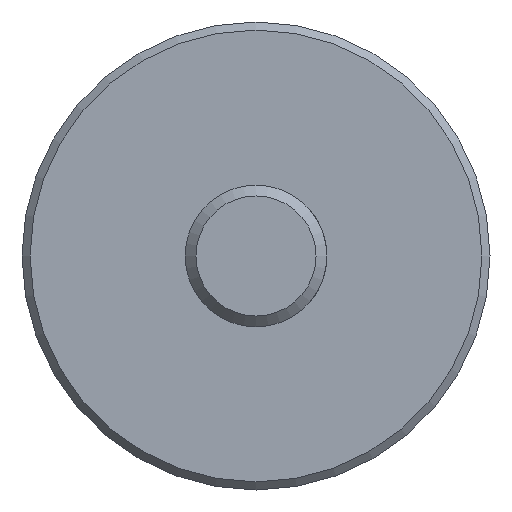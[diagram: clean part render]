
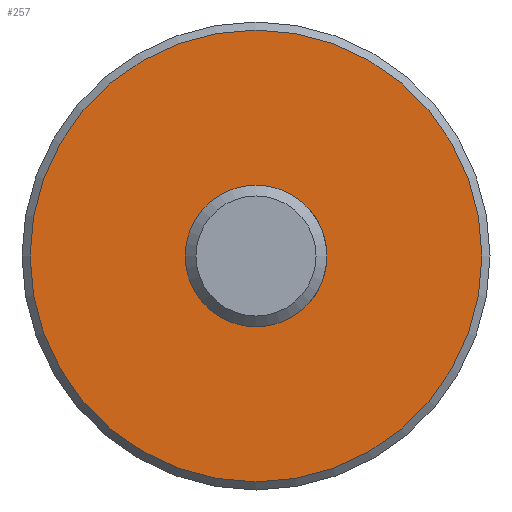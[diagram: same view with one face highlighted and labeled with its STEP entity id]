
A CAD part, front view. The second image highlights one B-rep face of the part: STEP entity #257.
In plain terms, the highlighted planar face has unit normal (0, -1, 0).
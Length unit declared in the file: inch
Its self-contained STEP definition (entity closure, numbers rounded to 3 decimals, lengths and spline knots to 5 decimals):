
#5 = CIRCLE ( 'NONE', #543, 0.3937 ) ;
#21 = EDGE_CURVE ( 'NONE', #217, #217, #5, .T. ) ;
#77 = DIRECTION ( 'NONE',  ( 0., 1., 0. ) ) ;
#110 = DIRECTION ( 'NONE',  ( 0., 0., 1. ) ) ;
#111 = CARTESIAN_POINT ( 'NONE',  ( 0., 3.28, 1.255 ) ) ;
#121 = FACE_BOUND ( 'NONE', #440, .T. ) ;
#147 = ORIENTED_EDGE ( 'NONE', *, *, #21, .T. ) ;
#206 = PLANE ( 'NONE',  #338 ) ;
#217 = VERTEX_POINT ( 'NONE', #392 ) ;
#227 = ORIENTED_EDGE ( 'NONE', *, *, #442, .F. ) ;
#230 = FACE_OUTER_BOUND ( 'NONE', #495, .T. ) ;
#257 = ADVANCED_FACE ( 'NONE', ( #230, #121 ), #206, .F. ) ;
#285 = DIRECTION ( 'NONE',  ( 0., 1., 0. ) ) ;
#286 = CARTESIAN_POINT ( 'NONE',  ( 0., 3.28, 0. ) ) ;
#338 = AXIS2_PLACEMENT_3D ( 'NONE', #559, #77, #470 ) ;
#361 = AXIS2_PLACEMENT_3D ( 'NONE', #427, #285, #429 ) ;
#392 = CARTESIAN_POINT ( 'NONE',  ( 0., 3.28, 0.3937 ) ) ;
#427 = CARTESIAN_POINT ( 'NONE',  ( 0., 3.28, 0. ) ) ;
#429 = DIRECTION ( 'NONE',  ( 0., 0., 1. ) ) ;
#440 = EDGE_LOOP ( 'NONE', ( #147 ) ) ;
#442 = EDGE_CURVE ( 'NONE', #549, #549, #463, .T. ) ;
#462 = DIRECTION ( 'NONE',  ( 0., 1., 0. ) ) ;
#463 = CIRCLE ( 'NONE', #361, 1.255 ) ;
#470 = DIRECTION ( 'NONE',  ( 0., 0., 1. ) ) ;
#495 = EDGE_LOOP ( 'NONE', ( #227 ) ) ;
#543 = AXIS2_PLACEMENT_3D ( 'NONE', #286, #462, #110 ) ;
#549 = VERTEX_POINT ( 'NONE', #111 ) ;
#559 = CARTESIAN_POINT ( 'NONE',  ( 0.3937, 3.28, 0. ) ) ;
